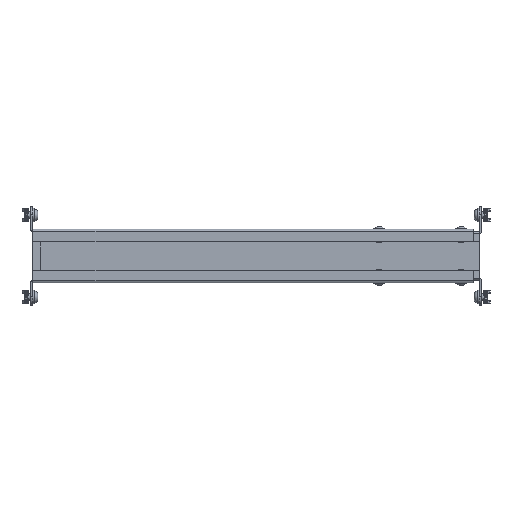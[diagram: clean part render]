
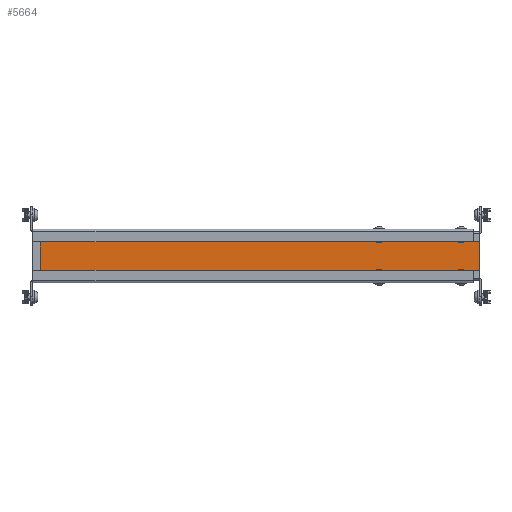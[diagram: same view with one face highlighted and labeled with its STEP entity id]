
A CAD part, top view. The second image highlights one B-rep face of the part: STEP entity #5664.
In plain terms, the highlighted planar face has unit normal (0, 0, 1).
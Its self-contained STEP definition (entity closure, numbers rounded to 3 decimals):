
#346=PLANE('',#6665);
#684=LINE('',#9336,#1164);
#688=LINE('',#9352,#1168);
#693=LINE('',#9369,#1173);
#694=LINE('',#9371,#1174);
#1164=VECTOR('',#7729,1000.);
#1168=VECTOR('',#7745,1000.);
#1173=VECTOR('',#7762,1000.);
#1174=VECTOR('',#7765,1000.);
#2048=ORIENTED_EDGE('',*,*,#3390,.F.);
#2049=ORIENTED_EDGE('',*,*,#3408,.T.);
#2050=ORIENTED_EDGE('',*,*,#3398,.F.);
#2051=ORIENTED_EDGE('',*,*,#3407,.T.);
#3390=EDGE_CURVE('',#4083,#4084,#684,.T.);
#3398=EDGE_CURVE('',#4089,#4090,#688,.T.);
#3407=EDGE_CURVE('',#4089,#4084,#693,.T.);
#3408=EDGE_CURVE('',#4083,#4090,#694,.T.);
#4083=VERTEX_POINT('',#9337);
#4084=VERTEX_POINT('',#9338);
#4089=VERTEX_POINT('',#9353);
#4090=VERTEX_POINT('',#9354);
#4768=EDGE_LOOP('',(#2048,#2049,#2050,#2051));
#5174=FACE_BOUND('',#4768,.T.);
#5664=ADVANCED_FACE('',(#5174),#346,.F.);
#6665=AXIS2_PLACEMENT_3D('',#9370,#7763,#7764);
#7729=DIRECTION('',(-1.,0.,0.));
#7745=DIRECTION('',(1.,0.,0.));
#7762=DIRECTION('',(0.,-1.,0.));
#7763=DIRECTION('',(0.,0.,-1.));
#7764=DIRECTION('',(-1.,0.,0.));
#7765=DIRECTION('',(0.,1.,0.));
#9336=CARTESIAN_POINT('',(535.7,-26.9,0.));
#9337=CARTESIAN_POINT('',(535.7,-26.9,0.));
#9338=CARTESIAN_POINT('',(0.,-26.9,0.));
#9352=CARTESIAN_POINT('',(0.,26.9,0.));
#9353=CARTESIAN_POINT('',(0.,26.9,0.));
#9354=CARTESIAN_POINT('',(535.7,26.9,0.));
#9369=CARTESIAN_POINT('',(0.,27.,0.));
#9370=CARTESIAN_POINT('',(0.,0.,0.));
#9371=CARTESIAN_POINT('',(535.7,0.,0.));
